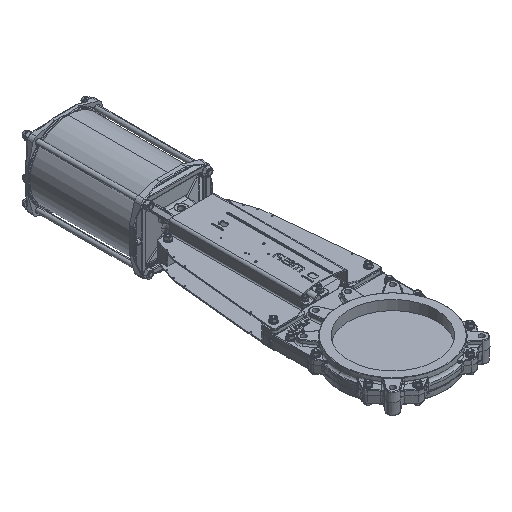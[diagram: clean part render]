
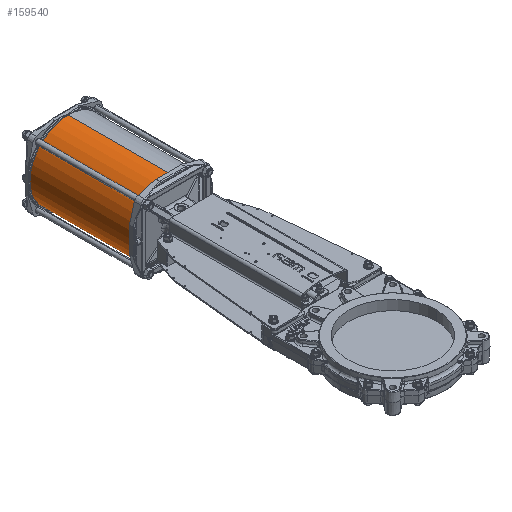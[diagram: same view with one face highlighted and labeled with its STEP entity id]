
A CAD part, isometric view. The second image highlights one B-rep face of the part: STEP entity #159540.
In plain terms, the highlighted cylindrical face has radius 131 mm (diameter 262 mm), a partial arc.
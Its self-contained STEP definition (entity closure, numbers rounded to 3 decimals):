
#7071 = EDGE_CURVE ( 'NONE', #145090, #91549, #51674, .T. ) ;
#7308 = AXIS2_PLACEMENT_3D ( 'NONE', #194283, #193587, #194969 ) ;
#10063 = VERTEX_POINT ( 'NONE', #62065 ) ;
#13303 = EDGE_CURVE ( 'NONE', #123358, #10063, #44722, .T. ) ;
#15886 = ORIENTED_EDGE ( 'NONE', *, *, #111849, .T. ) ;
#21434 = AXIS2_PLACEMENT_3D ( 'NONE', #65836, #178089, #81987 ) ;
#21651 = CARTESIAN_POINT ( 'NONE',  ( 0., 765.5, -0.25 ) ) ;
#33054 = AXIS2_PLACEMENT_3D ( 'NONE', #21651, #133822, #37807 ) ;
#37807 = DIRECTION ( 'NONE',  ( 0., 0., 1. ) ) ;
#44722 = CIRCLE ( 'NONE', #21434, 131. ) ;
#51674 = CIRCLE ( 'NONE', #33054, 131. ) ;
#52725 = DIRECTION ( 'NONE',  ( 0., -1., 0. ) ) ;
#53262 = ORIENTED_EDGE ( 'NONE', *, *, #7071, .F. ) ;
#57858 = CYLINDRICAL_SURFACE ( 'NONE', #7308, 131. ) ;
#62065 = CARTESIAN_POINT ( 'NONE',  ( 0., 1115.5, 130.75 ) ) ;
#65836 = CARTESIAN_POINT ( 'NONE',  ( 0., 1115.5, -0.25 ) ) ;
#68151 = CARTESIAN_POINT ( 'NONE',  ( 0., 879.277, -131.25 ) ) ;
#78026 = FACE_OUTER_BOUND ( 'NONE', #117112, .T. ) ;
#81987 = DIRECTION ( 'NONE',  ( 0., 0., -1. ) ) ;
#84062 = LINE ( 'NONE', #68151, #206980 ) ;
#89228 = VECTOR ( 'NONE', #133981, 1000. ) ;
#91549 = VERTEX_POINT ( 'NONE', #193834 ) ;
#111849 = EDGE_CURVE ( 'NONE', #123358, #91549, #84062, .T. ) ;
#117112 = EDGE_LOOP ( 'NONE', ( #203805, #15886, #53262, #201552 ) ) ;
#123358 = VERTEX_POINT ( 'NONE', #181258 ) ;
#124958 = EDGE_CURVE ( 'NONE', #10063, #145090, #131861, .T. ) ;
#131861 = LINE ( 'NONE', #198488, #89228 ) ;
#133822 = DIRECTION ( 'NONE',  ( 0., -1., 0. ) ) ;
#133981 = DIRECTION ( 'NONE',  ( 0., -1., 0. ) ) ;
#145090 = VERTEX_POINT ( 'NONE', #188497 ) ;
#159540 = ADVANCED_FACE ( 'NONE', ( #78026 ), #57858, .T. ) ;
#178089 = DIRECTION ( 'NONE',  ( 0., 1., 0. ) ) ;
#181258 = CARTESIAN_POINT ( 'NONE',  ( 0., 1115.5, -131.25 ) ) ;
#188497 = CARTESIAN_POINT ( 'NONE',  ( 0., 765.5, 130.75 ) ) ;
#193587 = DIRECTION ( 'NONE',  ( 0., -1., 0. ) ) ;
#193834 = CARTESIAN_POINT ( 'NONE',  ( 0., 765.5, -131.25 ) ) ;
#194283 = CARTESIAN_POINT ( 'NONE',  ( 0., 879.277, -0.25 ) ) ;
#194969 = DIRECTION ( 'NONE',  ( 0., 0., 1. ) ) ;
#198488 = CARTESIAN_POINT ( 'NONE',  ( 0., 879.277, 130.75 ) ) ;
#201552 = ORIENTED_EDGE ( 'NONE', *, *, #124958, .F. ) ;
#203805 = ORIENTED_EDGE ( 'NONE', *, *, #13303, .F. ) ;
#206980 = VECTOR ( 'NONE', #52725, 1000. ) ;
